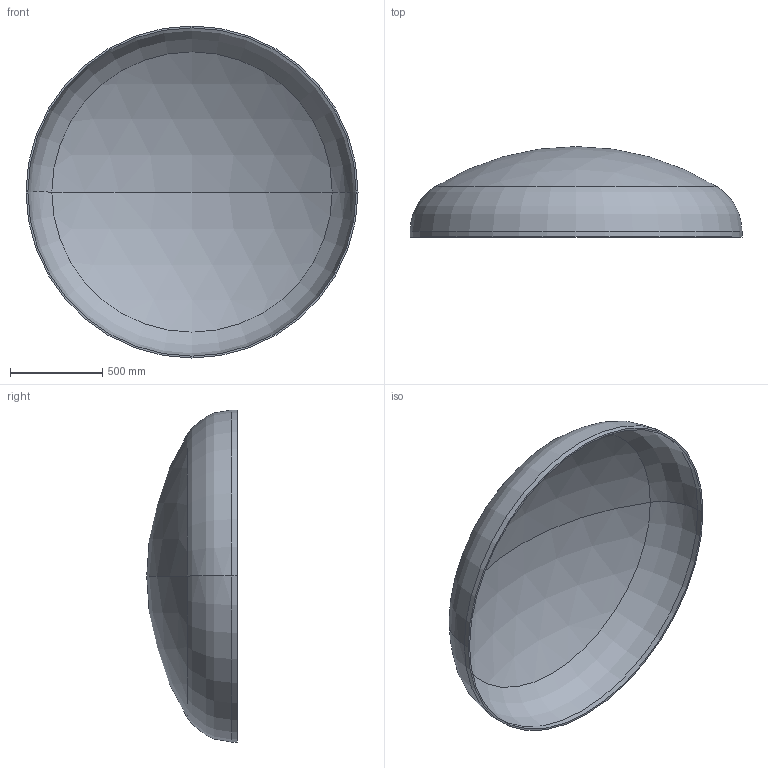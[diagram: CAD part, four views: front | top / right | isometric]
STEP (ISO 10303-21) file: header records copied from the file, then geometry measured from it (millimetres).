
FILE_DESCRIPTION (( 'STEP AP203' ), '1' );
FILE_NAME ('DIN 28013 Korbbogenform_-_Boden DIN 28013 - 1800 x 30 - I - s=10.step', '2016-07-01T12:16:17', ( '' ), ( '' ), 'SwSTEP 2.0', 'SolidWorks 2013', '' );
FILE_SCHEMA (( 'CONFIG_CONTROL_DESIGN' ));
Length unit declared in the file: millimetre
Products named in the file (1): DIN 28013 Korbbogenform_-_Boden DIN 28013 - 1800 x 30 - I - s=10
Bounding box: 1800 x 490.56 x 1800 mm (x, y, z)
Volume: 36619564 mm3; surface area: 7380353.8 mm2
Topology: 1 solids, 1 shells, 13 faces, 24 edges, 14 vertices
Faces by surface type: torus 4, cylinder 4, sphere 4, plane 1
Entity records: 407 total; most frequent: DIRECTION 72, CARTESIAN_POINT 52, ORIENTED_EDGE 48, AXIS2_PLACEMENT_3D 34, EDGE_CURVE 24, CIRCLE 20, VERTEX_POINT 14, EDGE_LOOP 14
